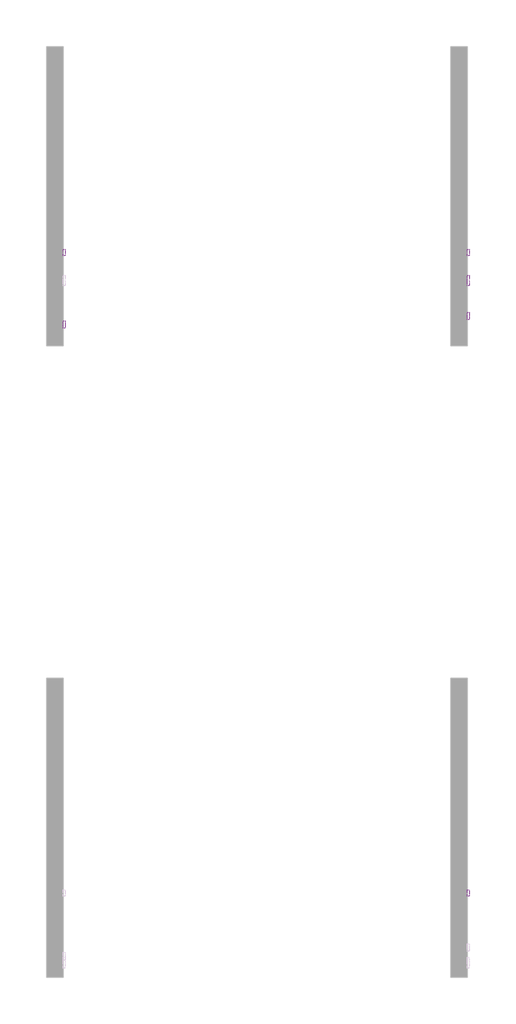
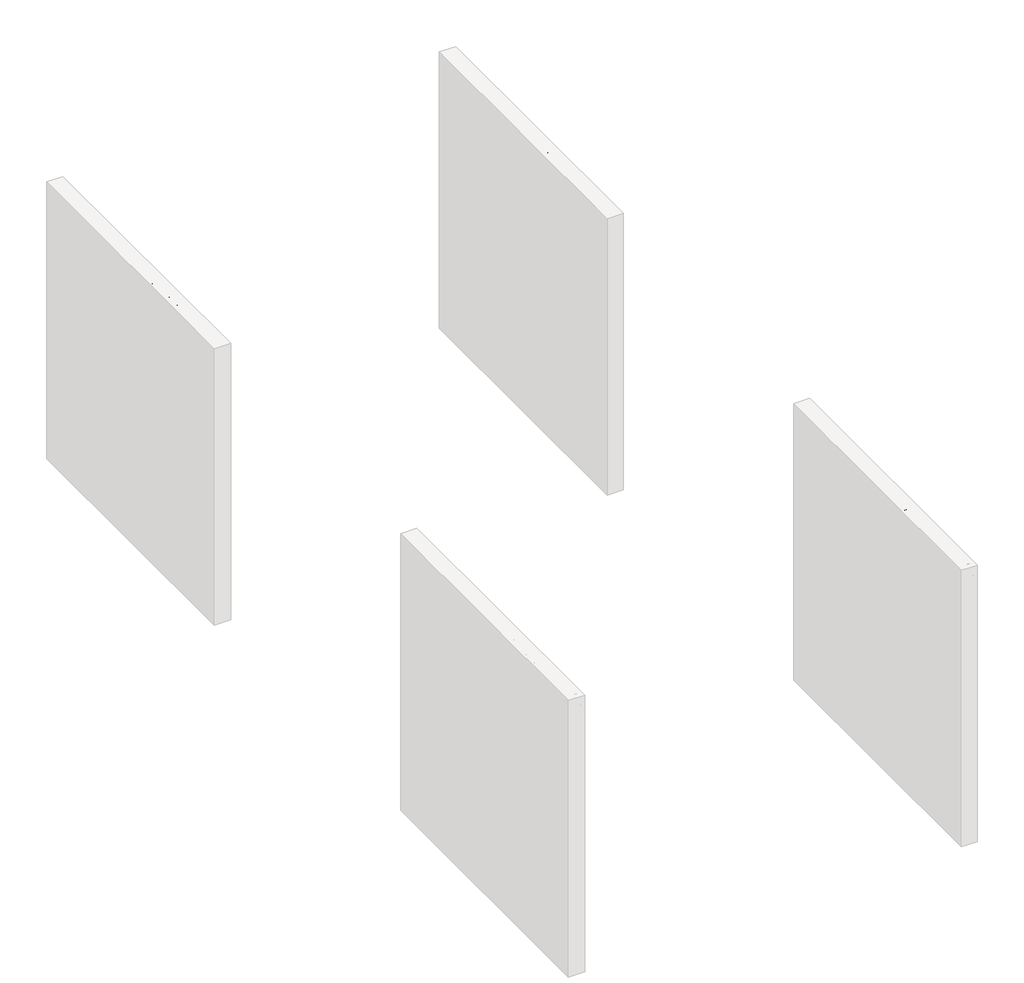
# One storey, part 8 of 9: 6 proxies.
"""IFC4 building model written with IfcOpenShell, lengths in millimetres."""

from ifc_helpers import new_model, si_unit, frame, origin, place, context, project, spatial, polyline, outline, extrude, element, save

model = new_model("IFC4")

# Units and contexts
model_context = context("Model", 3, world=origin())
ifc_project = project(units=[si_unit("LENGTHUNIT", "METRE", prefix="MILLI")], contexts=[model_context])

# Site, building, storey
site = spatial("IfcSite", under=ifc_project)
building = spatial("IfcBuilding", under=site)
storey = spatial("IfcBuildingStorey", under=building, Name="PORTOBELLO - SHOWROOM", Elevation=0.0)

# Proxies
placement = place(None, origin())
element("IfcBuildingElementProxy", 1, Name="10mm Arial", ObjectType="10mm Arial", at=placement, inside=storey, context=model_context, shape_type="SweptSolid", body=[
    extrude(outline(polyline([(20861.8829418, 2408.5886452), (20874.4399806, 2410.158275), (20880.0808379, 2398.1775847), (20890.7739412, 2394.4619766), (20900.939747, 2396.8532096), (20907.831403, 2403.2420935), (20911.9394186, 2414.1559261), (20913.7543031, 2428.7240531), (20913.6807267, 2431.1765997), (20903.6375483, 2421.6607188), (20889.8664989, 2418.0064243), (20878.4161718, 2420.2382417), (20868.8849625, 2426.933694), (20862.4562246, 2437.2773095), (20860.313312, 2450.4536163), (20862.5604578, 2464.0652501), (20869.3018954, 2474.7338279), (20879.4278473, 2481.6316153), (20891.8285362, 2483.9308778), (20909.7198639, 2478.682428), (20922.031648, 2463.7218935), (20926.2377655, 2435.6157091), (20922.0439108, 2405.1182917), (20916.8291835, 2395.1272299), (20909.5727111, 2387.8401007), (20900.5871934, 2383.3887285), (20890.18533, 2381.9049378), (20879.4493071, 2383.655443), (20870.883788, 2388.9069585), (20864.8934428, 2397.3283905), (20861.8829418, 2408.5886452)]), holes=[polyline([(20913.6807267, 2450.7479218), (20912.3256947, 2459.2582587), (20908.2605987, 2465.8065582), (20901.9514225, 2469.9820188), (20893.8641499, 2471.373839), (20885.4764404, 2469.8747199), (20878.7564627, 2465.3773625), (20874.3418787, 2458.4949035), (20872.8703507, 2449.8404796), (20874.262171, 2442.0812352), (20878.4376316, 2435.9222774), (20884.9920625, 2431.9031666), (20893.5207934, 2430.563463), (20908.0030813, 2435.9222774), (20912.2613154, 2442.3080957), (20913.6807267, 2450.7479218)])]), frame((-17115.5080774, 0.0, 0.0), z_axis=(1.0, 0.0, 0.0), x_axis=(0.0, 1.0, 0.0)), (0.0, 0.0, 1.0), 20.0),
    extrude(outline(polyline([(20932.5162849, 2383.4745677), (20959.3471451, 2420.5815982), (20934.0859147, 2457.2471704), (20949.1445511, 2457.2471704), (20961.3337079, 2439.5643092), (20967.0481415, 2431.2501761), (20972.0022857, 2438.0682557), (20985.8836997, 2457.2471704), (21000.9913869, 2457.2471704), (20974.4548323, 2420.5570728), (21000.0103683, 2383.4745677), (20984.9272065, 2383.4745677), (20969.5252136, 2405.792742), (20966.7293105, 2409.8884949), (20947.6239722, 2383.4745677), (20932.5162849, 2383.4745677)])), frame((-17115.5080774, 0.0, 0.0), z_axis=(1.0, 0.0, 0.0), x_axis=(0.0, 1.0, 0.0)), (0.0, 0.0, 1.0), 20.0),
    extrude(outline(polyline([(21007.8585175, 2410.158275), (21020.4155563, 2411.7279049), (21027.3440005, 2398.5086785), (21040.3057095, 2394.4619766), (21048.9141482, 2395.8537968), (21055.5605496, 2400.0292574), (21061.2259323, 2413.8125695), (21055.6096005, 2426.798804), (21041.3357791, 2431.9368892), (21032.5311367, 2430.563463), (21033.9290882, 2443.1205018), (21035.9401765, 2442.973349), (21050.1894724, 2446.5785926), (21054.9351502, 2451.152592), (21056.5170427, 2457.6641034), (21051.9307805, 2467.4865526), (21040.1095058, 2471.373839), (21028.1410782, 2467.4497644), (21021.9851861, 2455.6775406), (21009.4281474, 2457.2471704), (21013.1253614, 2468.5227536), (21019.7043178, 2476.9411199), (21028.7051639, 2482.1834383), (21039.6680474, 2483.9308778), (21054.8125228, 2480.4850498), (21065.4075243, 2471.0672707), (21069.0740815, 2458.3998673), (21065.5914653, 2446.8238472), (21055.2907694, 2438.5097141), (21068.9759796, 2429.9258009), (21073.782971, 2413.5918403), (21071.3794753, 2401.3536326), (21064.1689882, 2391.1265132), (21053.2858125, 2384.2103317), (21039.8642511, 2381.9049378), (21027.7241453, 2383.8731065), (21017.8403823, 2389.7776125), (21010.9671204, 2398.8091155), (21007.8585175, 2410.158275)])), frame((-17115.5080774, 0.0, 0.0), z_axis=(1.0, 0.0, 0.0), x_axis=(0.0, 1.0, 0.0)), (0.0, 0.0, 1.0), 20.0),
    extrude(outline(polyline([(21084.77038, 2469.8042092), (21084.77038, 2482.361248), (21150.6948335, 2482.361248), (21150.6948335, 2472.2077049), (21131.9941654, 2445.1929037), (21117.6835558, 2410.7714117), (21113.0237172, 2383.4745677), (21100.4666784, 2383.4745677), (21105.4576108, 2411.8014813), (21119.1550838, 2443.8194776), (21138.1377947, 2469.8042092), (21084.77038, 2469.8042092)])), frame((-17115.5080774, 0.0, 0.0), z_axis=(1.0, 0.0, 0.0), x_axis=(0.0, 1.0, 0.0)), (0.0, 0.0, 1.0), 20.0),
])
element("IfcBuildingElementProxy", 2, Name="10mm Arial", ObjectType="10mm Arial", at=placement, inside=storey, context=model_context, shape_type="SweptSolid", body=[
    extrude(outline(polyline([(20935.6555446, 2554.1836467), (20948.2125834, 2550.9462851), (20942.4184419, 2536.3137787), (20933.3256253, 2525.6237411), (20921.3817232, 2519.0846386), (20907.0343254, 2516.9049378), (20892.469264, 2518.5542754), (20880.902441, 2523.5022883), (20872.0364849, 2531.5772981), (20865.5740245, 2542.6076265), (20860.313312, 2569.4630122), (20861.8001684, 2584.110847), (20866.2607376, 2596.7598562), (20873.4620276, 2607.0084355), (20883.1710466, 2614.4549802), (20894.6857531, 2618.9891258), (20907.3041055, 2620.5005077), (20921.0720892, 2618.5446017), (20932.4549712, 2612.6768839), (20941.0971324, 2603.2591048), (20946.6429535, 2590.6530151), (20934.0859147, 2587.6609082), (20923.7852189, 2603.0996893), (20906.8135962, 2607.9434689), (20887.1686976, 2602.5723918), (20876.0709241, 2588.1514175), (20872.8703507, 2569.4875377), (20876.6595353, 2547.8560763), (20888.4562846, 2534.0359761), (20905.7835266, 2529.4619766), (20916.2650978, 2531.0193437), (20924.9992295, 2535.691445), (20931.5935142, 2543.4292297), (20935.6555446, 2554.1836467)])), frame((-13466.0063329, 0.0, 0.0), z_axis=(1.0, 0.0, 0.0), x_axis=(0.0, 1.0, 0.0)), (0.0, 0.0, 1.0), 20.0),
    extrude(outline(polyline([(20960.7696221, 2555.360869), (20963.4858175, 2573.1479635), (20971.6344037, 2585.64982), (20981.7021077, 2591.7750552), (20993.7563744, 2593.8168003), (21006.9480096, 2591.3305311), (21017.4847631, 2583.8717237), (21024.3917475, 2572.0289891), (21026.6940757, 2556.3909386), (21022.6228483, 2534.0482388), (21010.7647853, 2521.4053609), (20993.7563744, 2516.9049378), (20980.4053236, 2519.3820099), (20969.8808329, 2526.8132262), (20963.0474248, 2538.9042811), (20960.7696221, 2555.360869)]), holes=[polyline([(20973.3266609, 2555.3853945), (20974.7797948, 2544.0209065), (20979.1391964, 2535.924437), (20985.6997587, 2531.0775917), (20993.7563744, 2529.4619766), (21001.7762019, 2531.0867887), (21008.3245014, 2535.9612252), (21012.683903, 2544.1649937), (21014.1370369, 2555.777802), (21012.674706, 2566.8111961), (21008.2877132, 2574.7973011), (21001.7302166, 2579.6441464), (20993.7563744, 2581.2597615), (20985.6997587, 2579.6502778), (20979.1391964, 2574.8218266), (20974.7797948, 2566.7437511), (20973.3266609, 2555.3853945)])]), frame((-13466.0063329, 0.0, 0.0), z_axis=(1.0, 0.0, 0.0), x_axis=(0.0, 1.0, 0.0)), (0.0, 0.0, 1.0), 20.0),
    extrude(outline(polyline([(21084.77038, 2518.4745677), (21084.77038, 2579.6901317), (21073.782971, 2579.6901317), (21073.782971, 2592.2471704), (21084.77038, 2592.2471704), (21084.77038, 2599.6783867), (21086.0947552, 2610.1507609), (21092.5204273, 2617.6310281), (21105.175568, 2620.5005077), (21116.6289608, 2619.1270815), (21114.7895508, 2607.3548577), (21107.5545382, 2607.9434689), (21099.6450753, 2605.8588043), (21097.3274187, 2598.0842314), (21097.3274187, 2592.2471704), (21111.4540874, 2592.2471704), (21111.4540874, 2579.6901317), (21097.3274187, 2579.6901317), (21097.3274187, 2518.4745677), (21084.77038, 2518.4745677)])), frame((-13466.0063329, 0.0, 0.0), z_axis=(1.0, 0.0, 0.0), x_axis=(0.0, 1.0, 0.0)), (0.0, 0.0, 1.0), 20.0),
    extrude(outline(polyline([(21043.960004, 2518.4745677), (21043.960004, 2579.6901317), (21032.972595, 2579.6901317), (21032.972595, 2592.2471704), (21043.960004, 2592.2471704), (21043.960004, 2599.6783867), (21045.2843792, 2610.1507609), (21051.7100513, 2617.6310281), (21064.365192, 2620.5005077), (21075.8185848, 2619.1270815), (21073.9791748, 2607.3548577), (21066.7441622, 2607.9434689), (21058.8346993, 2605.8588043), (21056.5170427, 2598.0842314), (21056.5170427, 2592.2471704), (21070.6437114, 2592.2471704), (21070.6437114, 2579.6901317), (21056.5170427, 2579.6901317), (21056.5170427, 2518.4745677), (21043.960004, 2518.4745677)])), frame((-13466.0063329, 0.0, 0.0), z_axis=(1.0, 0.0, 0.0), x_axis=(0.0, 1.0, 0.0)), (0.0, 0.0, 1.0), 20.0),
    extrude(outline(polyline([(21174.0921284, 2540.4493855), (21186.4039125, 2538.8797557), (21181.9678688, 2529.602998), (21174.8892061, 2522.6684224), (21165.3273399, 2518.345809), (21153.4416857, 2516.9049378), (21138.7080118, 2519.391207), (21127.371115, 2526.8500144), (21120.1422338, 2538.7969822), (21117.7326067, 2554.7477324), (21120.1667593, 2571.2349771), (21127.4692169, 2583.5651553), (21138.6528295, 2591.253889), (21152.7304472, 2593.8168003), (21166.3696722, 2591.2600204), (21177.2681763, 2583.5896808), (21184.414284, 2571.2840281), (21186.79632, 2554.8213088), (21186.7227436, 2551.4367944), (21130.2896455, 2551.4367944), (21132.463215, 2542.0374095), (21137.5123953, 2535.1273593), (21144.7995245, 2530.8783223), (21153.6869404, 2529.4619766), (21165.9987245, 2532.0862015), (21174.0921284, 2540.4493855)]), holes=[polyline([(21130.2896455, 2563.9938332), (21174.2392812, 2563.9938332), (21169.2115606, 2575.3736496), (21161.8907089, 2579.7882335), (21152.6813963, 2581.2597615), (21137.2180897, 2576.5631347), (21132.3528504, 2571.0724959), (21130.2896455, 2563.9938332)])]), frame((-13466.0063329, 0.0, 0.0), z_axis=(1.0, 0.0, 0.0), x_axis=(0.0, 1.0, 0.0)), (0.0, 0.0, 1.0), 20.0),
    extrude(outline(polyline([(21251.0039909, 2540.4493855), (21263.315775, 2538.8797557), (21258.8797312, 2529.602998), (21251.8010685, 2522.6684224), (21242.2392023, 2518.345809), (21230.3535482, 2516.9049378), (21215.6198743, 2519.391207), (21204.2829775, 2526.8500144), (21197.0540963, 2538.7969822), (21194.6444692, 2554.7477324), (21197.0786217, 2571.2349771), (21204.3810793, 2583.5651553), (21215.564692, 2591.253889), (21229.6423097, 2593.8168003), (21243.2815346, 2591.2600204), (21254.1800387, 2583.5896808), (21261.3261465, 2571.2840281), (21263.7081824, 2554.8213088), (21263.634606, 2551.4367944), (21207.201508, 2551.4367944), (21209.3750774, 2542.0374095), (21214.4242578, 2535.1273593), (21221.711387, 2530.8783223), (21230.5988029, 2529.4619766), (21242.910587, 2532.0862015), (21251.0039909, 2540.4493855)]), holes=[polyline([(21207.201508, 2563.9938332), (21251.1511437, 2563.9938332), (21246.1234231, 2575.3736496), (21238.8025713, 2579.7882335), (21229.5932587, 2581.2597615), (21214.1299522, 2576.5631347), (21209.2647128, 2571.0724959), (21207.201508, 2563.9938332)])]), frame((-13466.0063329, 0.0, 0.0), z_axis=(1.0, 0.0, 0.0), x_axis=(0.0, 1.0, 0.0)), (0.0, 0.0, 1.0), 20.0),
    extrude(outline(polyline([(21317.0755972, 2518.4745677), (21317.0755972, 2618.9308778), (21338.6089566, 2618.9308778), (21359.2103484, 2548.1258565), (21363.3796776, 2533.3370003), (21367.867838, 2549.3521298), (21388.0768223, 2618.9308778), (21409.6837581, 2618.9308778), (21409.6837581, 2518.4745677), (21397.1267193, 2518.4745677), (21397.1267193, 2606.373839), (21371.8900145, 2518.4745677), (21354.8938663, 2518.4745677), (21329.632636, 2606.373839), (21329.632636, 2518.4745677), (21317.0755972, 2518.4745677)])), frame((-13466.0063329, 0.0, 0.0), z_axis=(1.0, 0.0, 0.0), x_axis=(0.0, 1.0, 0.0)), (0.0, 0.0, 1.0), 20.0),
    extrude(outline(polyline([(-13446.0063329, 21442.6459849), (-13446.0063329, 21430.0889461), (-13466.0063329, 21430.0889461), (-13466.0063329, 21442.6459849), (-13446.0063329, 21442.6459849)])), frame((0.0, 0.0, 2606.373839), z_axis=(0.0, 0.0, 1.0), x_axis=(1.0, 0.0, 0.0)), (0.0, 0.0, 1.0), 12.5570388),
    extrude(outline(polyline([(-13446.0063329, 21442.6459849), (-13446.0063329, 21430.0889461), (-13466.0063329, 21430.0889461), (-13466.0063329, 21442.6459849), (-13446.0063329, 21442.6459849)])), frame((0.0, 0.0, 2518.4745677), z_axis=(0.0, 0.0, 1.0), x_axis=(1.0, 0.0, 0.0)), (0.0, 0.0, 1.0), 73.7726028),
    extrude(outline(polyline([(21453.6333938, 2518.4745677), (21480.464254, 2555.5815982), (21455.2030236, 2592.2471704), (21470.26166, 2592.2471704), (21482.4508168, 2574.5643092), (21488.1652504, 2566.2501761), (21493.1193946, 2573.0682557), (21507.0008086, 2592.2471704), (21522.1084958, 2592.2471704), (21495.5719412, 2555.5570728), (21521.1274772, 2518.4745677), (21506.0443154, 2518.4745677), (21490.6423225, 2540.792742), (21487.8464194, 2544.8884949), (21468.7410811, 2518.4745677), (21453.6333938, 2518.4745677)])), frame((-13466.0063329, 0.0, 0.0), z_axis=(1.0, 0.0, 0.0), x_axis=(0.0, 1.0, 0.0)), (0.0, 0.0, 1.0), 20.0),
])
element("IfcBuildingElementProxy", 3, Name="10mm Arial", ObjectType="10mm Arial", at=placement, inside=storey, context=model_context, shape_type="SweptSolid", body=[
    extrude(outline(polyline([(20924.6681357, 2396.0316064), (20924.6681357, 2383.4745677), (20858.7436821, 2383.4745677), (20860.0925828, 2392.1320573), (20867.7322655, 2405.4616482), (20883.4653522, 2420.0175125), (20905.1336017, 2440.9377353), (20910.5414671, 2455.1625058), (20905.4279073, 2466.6772122), (20892.0737909, 2471.373839), (20878.1555887, 2466.7875768), (20872.8703507, 2454.1079107), (20860.313312, 2455.6775406), (20863.3575355, 2467.8237778), (20869.9395575, 2476.6958652), (20879.7160215, 2482.1221247), (20892.343571, 2483.9308778), (20905.063091, 2481.9197896), (20914.8211609, 2475.8865249), (20921.0291696, 2466.873416), (20923.0985058, 2455.9227952), (20920.8666884, 2444.0156813), (20913.4477348, 2431.7038972), (20895.4583053, 2414.4992826), (20881.0128056, 2402.4204904), (20875.3474228, 2396.0316064), (20924.6681357, 2396.0316064)])), frame((-13466.0063329, 0.0, 0.0), z_axis=(1.0, 0.0, 0.0), x_axis=(0.0, 1.0, 0.0)), (0.0, 0.0, 1.0), 20.0),
    extrude(outline(polyline([(20937.2251744, 2432.8933823), (20940.9162571, 2461.7966444), (20951.8791406, 2478.4616988), (20970.1874012, 2483.9308778), (20984.8536301, 2480.6935163), (20994.9826477, 2471.3615763), (21000.8687596, 2456.4991437), (21003.149628, 2432.8933823), (20999.4953335, 2404.1127476), (20988.5692382, 2387.410905), (20980.3378786, 2383.2814296), (20970.1874012, 2381.9049378), (20957.1398531, 2384.2961708), (20947.2315647, 2391.4698697), (20939.726772, 2408.4598865), (20937.2251744, 2432.8933823)]), holes=[polyline([(20949.7822132, 2432.9179078), (20951.2537412, 2413.1657104), (20955.6683251, 2401.7337774), (20962.2411501, 2396.2799268), (20970.1874012, 2394.4619766), (20978.1336523, 2396.2860581), (20984.7064773, 2401.7583028), (20989.1210612, 2413.1963672), (20990.5925892, 2432.9179078), (20989.1701122, 2452.2255812), (20984.902681, 2463.746419), (20978.3421188, 2469.466984), (20970.0402484, 2471.373839), (20962.1798364, 2469.6938446), (20955.8645289, 2464.6538613), (20951.3027921, 2452.4156536), (20949.7822132, 2432.9179078)])]), frame((-13466.0063329, 0.0, 0.0), z_axis=(1.0, 0.0, 0.0), x_axis=(0.0, 1.0, 0.0)), (0.0, 0.0, 1.0), 20.0),
    extrude(outline(polyline([(21009.4281474, 2383.4745677), (21036.2590075, 2420.5815982), (21010.9977772, 2457.2471704), (21026.0564135, 2457.2471704), (21038.2455703, 2439.5643092), (21043.960004, 2431.2501761), (21048.9141482, 2438.0682557), (21062.7955621, 2457.2471704), (21077.9032494, 2457.2471704), (21051.3666948, 2420.5570728), (21076.9222307, 2383.4745677), (21061.8390689, 2383.4745677), (21046.4370761, 2405.792742), (21043.6411729, 2409.8884949), (21024.5358346, 2383.4745677), (21009.4281474, 2383.4745677)])), frame((-13466.0063329, 0.0, 0.0), z_axis=(1.0, 0.0, 0.0), x_axis=(0.0, 1.0, 0.0)), (0.0, 0.0, 1.0), 20.0),
    extrude(outline(polyline([(21149.1252037, 2396.0316064), (21149.1252037, 2383.4745677), (21083.2007501, 2383.4745677), (21084.5496508, 2392.1320573), (21092.1893335, 2405.4616482), (21107.9224202, 2420.0175125), (21129.5906697, 2440.9377353), (21134.998535, 2455.1625058), (21129.8849753, 2466.6772122), (21116.5308589, 2471.373839), (21102.6126567, 2466.7875768), (21097.3274187, 2454.1079107), (21084.77038, 2455.6775406), (21087.8146035, 2467.8237778), (21094.3966255, 2476.6958652), (21104.1730895, 2482.1221247), (21116.800639, 2483.9308778), (21129.520159, 2481.9197896), (21139.2782289, 2475.8865249), (21145.4862376, 2466.873416), (21147.5555738, 2455.9227952), (21145.3237564, 2444.0156813), (21137.9048028, 2431.7038972), (21119.9153732, 2414.4992826), (21105.4698736, 2402.4204904), (21099.8044908, 2396.0316064), (21149.1252037, 2396.0316064)])), frame((-13466.0063329, 0.0, 0.0), z_axis=(1.0, 0.0, 0.0), x_axis=(0.0, 1.0, 0.0)), (0.0, 0.0, 1.0), 20.0),
    extrude(outline(polyline([(21161.6822424, 2432.8933823), (21165.3733251, 2461.7966444), (21176.3362086, 2478.4616988), (21194.6444692, 2483.9308778), (21209.3106981, 2480.6935163), (21219.4397157, 2471.3615763), (21225.3258276, 2456.4991437), (21227.606696, 2432.8933823), (21223.9524015, 2404.1127476), (21213.0263062, 2387.410905), (21204.7949466, 2383.2814296), (21194.6444692, 2381.9049378), (21181.5969211, 2384.2961708), (21171.6886327, 2391.4698697), (21164.18384, 2408.4598865), (21161.6822424, 2432.8933823)]), holes=[polyline([(21174.2392812, 2432.9179078), (21175.7108092, 2413.1657104), (21180.1253931, 2401.7337774), (21186.6982181, 2396.2799268), (21194.6444692, 2394.4619766), (21202.5907203, 2396.2860581), (21209.1635453, 2401.7583028), (21213.5781292, 2413.1963672), (21215.0496572, 2432.9179078), (21213.6271801, 2452.2255812), (21209.359749, 2463.746419), (21202.7991868, 2469.466984), (21194.4973164, 2471.373839), (21186.6369044, 2469.6938446), (21180.3215968, 2464.6538613), (21175.7598601, 2452.4156536), (21174.2392812, 2432.9179078)])]), frame((-13466.0063329, 0.0, 0.0), z_axis=(1.0, 0.0, 0.0), x_axis=(0.0, 1.0, 0.0)), (0.0, 0.0, 1.0), 20.0),
])
element("IfcBuildingElementProxy", 4, Name="10mm Arial Narrow", ObjectType="10mm Arial Narrow", at=placement, inside=storey, context=model_context, shape_type="SweptSolid", body=[
    extrude(outline(polyline([(15806.9277964, 2518.4745677), (15806.9277964, 2615.7916181), (15837.1676964, 2615.7916181), (15852.9130458, 2613.9767336), (15863.9985566, 2604.8164719), (15868.1433604, 2588.3721467), (15866.4173807, 2576.7041561), (15861.2394416, 2567.402873), (15851.8247282, 2561.314426), (15837.3884256, 2559.2849437), (15816.3455754, 2559.2849437), (15816.3455754, 2518.4745677), (15806.9277964, 2518.4745677)]), holes=[polyline([(15816.3455754, 2570.2723526), (15838.5411225, 2570.2723526), (15853.869539, 2574.6501483), (15858.7255813, 2587.857112), (15856.3343483, 2597.6795612), (15850.558601, 2603.2836303), (15838.3203933, 2604.8042092), (15816.3455754, 2604.8042092), (15816.3455754, 2570.2723526)])]), frame((-13466.0063329, 0.0, 0.0), z_axis=(1.0, 0.0, 0.0), x_axis=(0.0, 1.0, 0.0)), (0.0, 0.0, 1.0), 20.0),
    extrude(outline(polyline([(15875.9915096, 2553.7912392), (15877.8799705, 2569.8216971), (15883.5453532, 2581.3701261), (15892.104741, 2588.350687), (15902.675217, 2590.6775406), (15913.1230656, 2588.350687), (15921.7069789, 2581.3701261), (15927.445938, 2570.0056381), (15929.3589244, 2554.5270032), (15927.4796605, 2537.9447223), (15921.8418689, 2526.2123523), (15913.2916782, 2519.2317914), (15902.675217, 2516.9049378), (15892.1813831, 2519.2379228), (15883.6066669, 2526.2368778), (15877.8952989, 2537.7914381), (15875.9915096, 2553.7912392)]), holes=[polyline([(15885.4092887, 2553.8157647), (15886.6692845, 2541.6879216), (15890.449272, 2533.1162711), (15896.093195, 2528.0211054), (15902.9449971, 2526.3227169), (15909.4381143, 2528.0364339), (15914.9379502, 2533.1775847), (15918.6903465, 2541.7645636), (15919.9411453, 2553.8157647), (15918.6811495, 2565.9068196), (15914.901162, 2574.4662073), (15909.257239, 2579.561373), (15902.4054369, 2581.2597615), (15895.8663344, 2579.5521759), (15890.3756956, 2574.4294191), (15886.6508904, 2565.8608343), (15885.4092887, 2553.8157647)])]), frame((-13466.0063329, 0.0, 0.0), z_axis=(1.0, 0.0, 0.0), x_axis=(0.0, 1.0, 0.0)), (0.0, 0.0, 1.0), 20.0),
    extrude(outline(polyline([(15998.4226376, 2526.3227169), (15999.9922674, 2516.9049378), (15992.8798822, 2516.9049378), (15984.8845802, 2518.9528143), (15980.7152509, 2524.5568833), (15979.5870794, 2538.7080774), (15979.5870794, 2579.6901317), (15971.7389302, 2579.6901317), (15971.7389302, 2582.8293914), (15970.1693004, 2578.1205018), (15962.8607114, 2579.6901317), (15956.9868622, 2577.4460515), (15953.2467286, 2571.1797948), (15951.3337422, 2556.2928368), (15951.3337422, 2518.4745677), (15941.9159631, 2518.4745677), (15941.9159631, 2589.1079107), (15951.3337422, 2589.1079107), (15951.3337422, 2579.7391826), (15957.3670069, 2588.5192995), (15963.5474244, 2590.6775406), (15971.7389302, 2589.1079107), (15979.5870794, 2589.1079107), (15979.5870794, 2604.8042092), (15989.0048585, 2612.6523584), (15989.0048585, 2589.1079107), (15998.4226376, 2589.1079107), (15998.4226376, 2579.6901317), (15989.0048585, 2579.6901317), (15989.0048585, 2536.5498364), (15989.8387244, 2528.8243145), (15994.3023592, 2526.3227169), (15998.4226376, 2526.3227169)])), frame((-13466.0063329, 0.0, 0.0), z_axis=(1.0, 0.0, 0.0), x_axis=(0.0, 1.0, 0.0)), (0.0, 0.0, 1.0), 20.0),
    extrude(outline(polyline([(16004.701157, 2553.7912392), (16006.5896179, 2569.8216971), (16012.2550006, 2581.3701261), (16020.8143884, 2588.350687), (16031.3848644, 2590.6775406), (16041.832713, 2588.350687), (16050.4166262, 2581.3701261), (16056.1555854, 2570.0056381), (16058.0685717, 2554.5270032), (16056.1893079, 2537.9447223), (16050.5515163, 2526.2123523), (16042.0013256, 2519.2317914), (16031.3848644, 2516.9049378), (16020.8910304, 2519.2379228), (16012.3163143, 2526.2368778), (16006.6049463, 2537.7914381), (16004.701157, 2553.7912392)]), holes=[polyline([(16014.1189361, 2553.8157647), (16015.3789319, 2541.6879216), (16019.1589194, 2533.1162711), (16024.8028423, 2528.0211054), (16031.6546445, 2526.3227169), (16038.1477617, 2528.0364339), (16043.6475975, 2533.1775847), (16047.3999939, 2541.7645636), (16048.6507927, 2553.8157647), (16047.3907968, 2565.9068196), (16043.6108093, 2574.4662073), (16037.9668864, 2579.561373), (16031.1150842, 2581.2597615), (16024.5759818, 2579.5521759), (16019.085343, 2574.4294191), (16015.3605378, 2565.8608343), (16014.1189361, 2553.8157647)])]), frame((-13466.0063329, 0.0, 0.0), z_axis=(1.0, 0.0, 0.0), x_axis=(0.0, 1.0, 0.0)), (0.0, 0.0, 1.0), 20.0),
    extrude(outline(polyline([(16080.0433896, 2518.4745677), (16070.6256105, 2518.4745677), (16070.6256105, 2615.7916181), (16080.0433896, 2615.7916181), (16080.0433896, 2581.5785926), (16087.192563, 2588.4211977), (16096.0830446, 2590.6775406), (16108.5297187, 2586.6185759), (16117.4937767, 2574.3190545), (16120.8537656, 2554.3307995), (16118.9867645, 2538.4321659), (16113.3857611, 2526.641548), (16105.2954229, 2519.3390904), (16095.9604172, 2516.9049378), (16086.9350456, 2519.4310609), (16080.0433896, 2526.9358536), (16080.0433896, 2518.4745677)]), holes=[polyline([(16080.0433896, 2554.3307995), (16082.0544778, 2537.6657451), (16087.744386, 2529.2289847), (16095.9113663, 2526.3227169), (16101.6533911, 2528.0517623), (16106.7148342, 2533.2388984), (16111.4359865, 2553.938392), (16106.8865125, 2574.6501483), (16101.818938, 2579.6073582), (16095.7151626, 2581.2597615), (16089.9394153, 2579.5307161), (16084.8258555, 2574.34358), (16080.0433896, 2554.3307995)])]), frame((-13466.0063329, 0.0, 0.0), z_axis=(1.0, 0.0, 0.0), x_axis=(0.0, 1.0, 0.0)), (0.0, 0.0, 1.0), 20.0),
    extrude(outline(polyline([(16171.0819207, 2540.4493855), (16180.4996997, 2538.8797557), (16171.3026499, 2522.4476932), (16154.8215365, 2516.9049378), (16143.6195297, 2519.2379228), (16134.7842305, 2526.2368778), (16129.0452713, 2537.6442853), (16127.132285, 2553.202628), (16129.0544684, 2569.3066623), (16134.8210187, 2581.0758205), (16143.5306249, 2588.2771106), (16154.2819762, 2590.6775406), (16164.6041319, 2588.359884), (16173.0562207, 2581.4069143), (16178.6940123, 2570.0638861), (16180.5732761, 2554.5760541), (16180.4996997, 2551.4367944), (16136.550064, 2551.4367944), (16142.3503368, 2532.6502872), (16148.0800989, 2527.9046095), (16154.9441638, 2526.3227169), (16164.7788758, 2529.854384), (16171.0819207, 2540.4493855)]), holes=[polyline([(16137.1877262, 2560.8545735), (16171.0819207, 2560.8545735), (16166.9616423, 2574.6378856), (16161.3330478, 2579.6042925), (16154.3555526, 2581.2597615), (16142.5588033, 2575.7415316), (16137.1877262, 2560.8545735)])]), frame((-13466.0063329, 0.0, 0.0), z_axis=(1.0, 0.0, 0.0), x_axis=(0.0, 1.0, 0.0)), (0.0, 0.0, 1.0), 20.0),
    extrude(outline(polyline([(-13446.0063329, 16202.4745176), (-13446.0063329, 16193.0567385), (-13466.0063329, 16193.0567385), (-13466.0063329, 16202.4745176), (-13446.0063329, 16202.4745176)])), frame((0.0, 0.0, 2518.4745677), z_axis=(0.0, 0.0, 1.0), x_axis=(1.0, 0.0, 0.0)), (0.0, 0.0, 1.0), 97.3170505),
    extrude(outline(polyline([(-13446.0063329, 16227.5885951), (-13446.0063329, 16218.170816), (-13466.0063329, 16218.170816), (-13466.0063329, 16227.5885951), (-13446.0063329, 16227.5885951)])), frame((0.0, 0.0, 2518.4745677), z_axis=(0.0, 0.0, 1.0), x_axis=(1.0, 0.0, 0.0)), (0.0, 0.0, 1.0), 97.3170505),
    extrude(outline(polyline([(16238.576004, 2553.7912392), (16240.464465, 2569.8216971), (16246.1298477, 2581.3701261), (16254.6892354, 2588.350687), (16265.2597114, 2590.6775406), (16275.7075601, 2588.350687), (16284.2914733, 2581.3701261), (16290.0304324, 2570.0056381), (16291.9434188, 2554.5270032), (16290.064155, 2537.9447223), (16284.4263634, 2526.2123523), (16275.8761727, 2519.2317914), (16265.2597114, 2516.9049378), (16254.7658775, 2519.2379228), (16246.1911613, 2526.2368778), (16240.4797934, 2537.7914381), (16238.576004, 2553.7912392)]), holes=[polyline([(16247.9937831, 2553.8157647), (16249.253779, 2541.6879216), (16253.0337665, 2533.1162711), (16258.6776894, 2528.0211054), (16265.5294916, 2526.3227169), (16272.0226088, 2528.0364339), (16277.5224446, 2533.1775847), (16281.274841, 2541.7645636), (16282.5256397, 2553.8157647), (16281.2656439, 2565.9068196), (16277.4856564, 2574.4662073), (16271.8417335, 2579.561373), (16264.9899313, 2581.2597615), (16258.4508288, 2579.5521759), (16252.9601901, 2574.4294191), (16249.2353849, 2565.8608343), (16247.9937831, 2553.8157647)])]), frame((-13466.0063329, 0.0, 0.0), z_axis=(1.0, 0.0, 0.0), x_axis=(0.0, 1.0, 0.0)), (0.0, 0.0, 1.0), 20.0),
])
element("IfcBuildingElementProxy", 5, Name="10mm Arial Narrow", ObjectType="10mm Arial Narrow", at=placement, inside=storey, context=model_context, shape_type="SweptSolid", body=[
    extrude(outline(polyline([(21586.9277964, 2518.4745677), (21586.9277964, 2615.7916181), (21617.1676964, 2615.7916181), (21632.9130458, 2613.9767336), (21643.9985566, 2604.8164719), (21648.1433604, 2588.3721467), (21646.4173807, 2576.7041561), (21641.2394416, 2567.402873), (21631.8247282, 2561.314426), (21617.3884256, 2559.2849437), (21596.3455754, 2559.2849437), (21596.3455754, 2518.4745677), (21586.9277964, 2518.4745677)]), holes=[polyline([(21596.3455754, 2570.2723526), (21618.5411225, 2570.2723526), (21633.869539, 2574.6501483), (21638.7255813, 2587.857112), (21636.3343483, 2597.6795612), (21630.558601, 2603.2836303), (21618.3203933, 2604.8042092), (21596.3455754, 2604.8042092), (21596.3455754, 2570.2723526)])]), frame((-17115.5080774, 0.0, 0.0), z_axis=(1.0, 0.0, 0.0), x_axis=(0.0, 1.0, 0.0)), (0.0, 0.0, 1.0), 20.0),
    extrude(outline(polyline([(21655.9915096, 2553.7912392), (21657.8799705, 2569.8216971), (21663.5453532, 2581.3701261), (21672.104741, 2588.350687), (21682.675217, 2590.6775406), (21693.1230656, 2588.350687), (21701.7069789, 2581.3701261), (21707.445938, 2570.0056381), (21709.3589244, 2554.5270032), (21707.4796605, 2537.9447223), (21701.8418689, 2526.2123523), (21693.2916782, 2519.2317914), (21682.675217, 2516.9049378), (21672.1813831, 2519.2379228), (21663.6066669, 2526.2368778), (21657.8952989, 2537.7914381), (21655.9915096, 2553.7912392)]), holes=[polyline([(21665.4092887, 2553.8157647), (21666.6692845, 2541.6879216), (21670.449272, 2533.1162711), (21676.093195, 2528.0211054), (21682.9449971, 2526.3227169), (21689.4381143, 2528.0364339), (21694.9379502, 2533.1775847), (21698.6903465, 2541.7645636), (21699.9411453, 2553.8157647), (21698.6811495, 2565.9068196), (21694.901162, 2574.4662073), (21689.257239, 2579.561373), (21682.4054369, 2581.2597615), (21675.8663344, 2579.5521759), (21670.3756956, 2574.4294191), (21666.6508904, 2565.8608343), (21665.4092887, 2553.8157647)])]), frame((-17115.5080774, 0.0, 0.0), z_axis=(1.0, 0.0, 0.0), x_axis=(0.0, 1.0, 0.0)), (0.0, 0.0, 1.0), 20.0),
    extrude(outline(polyline([(21778.4226376, 2526.3227169), (21779.9922674, 2516.9049378), (21772.8798822, 2516.9049378), (21764.8845802, 2518.9528143), (21760.7152509, 2524.5568833), (21759.5870794, 2538.7080774), (21759.5870794, 2579.6901317), (21751.7389302, 2579.6901317), (21751.7389302, 2582.8293914), (21750.1693004, 2578.1205018), (21742.8607114, 2579.6901317), (21736.9868622, 2577.4460515), (21733.2467286, 2571.1797948), (21731.3337422, 2556.2928368), (21731.3337422, 2518.4745677), (21721.9159631, 2518.4745677), (21721.9159631, 2589.1079107), (21731.3337422, 2589.1079107), (21731.3337422, 2579.7391826), (21737.3670069, 2588.5192995), (21743.5474244, 2590.6775406), (21751.7389302, 2589.1079107), (21759.5870794, 2589.1079107), (21759.5870794, 2604.8042092), (21769.0048585, 2612.6523584), (21769.0048585, 2589.1079107), (21778.4226376, 2589.1079107), (21778.4226376, 2579.6901317), (21769.0048585, 2579.6901317), (21769.0048585, 2536.5498364), (21769.8387244, 2528.8243145), (21774.3023592, 2526.3227169), (21778.4226376, 2526.3227169)])), frame((-17115.5080774, 0.0, 0.0), z_axis=(1.0, 0.0, 0.0), x_axis=(0.0, 1.0, 0.0)), (0.0, 0.0, 1.0), 20.0),
    extrude(outline(polyline([(21784.701157, 2553.7912392), (21786.5896179, 2569.8216971), (21792.2550006, 2581.3701261), (21800.8143884, 2588.350687), (21811.3848644, 2590.6775406), (21821.832713, 2588.350687), (21830.4166262, 2581.3701261), (21836.1555854, 2570.0056381), (21838.0685717, 2554.5270032), (21836.1893079, 2537.9447223), (21830.5515163, 2526.2123523), (21822.0013256, 2519.2317914), (21811.3848644, 2516.9049378), (21800.8910304, 2519.2379228), (21792.3163143, 2526.2368778), (21786.6049463, 2537.7914381), (21784.701157, 2553.7912392)]), holes=[polyline([(21794.1189361, 2553.8157647), (21795.3789319, 2541.6879216), (21799.1589194, 2533.1162711), (21804.8028423, 2528.0211054), (21811.6546445, 2526.3227169), (21818.1477617, 2528.0364339), (21823.6475975, 2533.1775847), (21827.3999939, 2541.7645636), (21828.6507927, 2553.8157647), (21827.3907968, 2565.9068196), (21823.6108093, 2574.4662073), (21817.9668864, 2579.561373), (21811.1150842, 2581.2597615), (21804.5759818, 2579.5521759), (21799.085343, 2574.4294191), (21795.3605378, 2565.8608343), (21794.1189361, 2553.8157647)])]), frame((-17115.5080774, 0.0, 0.0), z_axis=(1.0, 0.0, 0.0), x_axis=(0.0, 1.0, 0.0)), (0.0, 0.0, 1.0), 20.0),
    extrude(outline(polyline([(21860.0433896, 2518.4745677), (21850.6256105, 2518.4745677), (21850.6256105, 2615.7916181), (21860.0433896, 2615.7916181), (21860.0433896, 2581.5785926), (21867.192563, 2588.4211977), (21876.0830446, 2590.6775406), (21888.5297187, 2586.6185759), (21897.4937767, 2574.3190545), (21900.8537656, 2554.3307995), (21898.9867645, 2538.4321659), (21893.3857611, 2526.641548), (21885.2954229, 2519.3390904), (21875.9604172, 2516.9049378), (21866.9350456, 2519.4310609), (21860.0433896, 2526.9358536), (21860.0433896, 2518.4745677)]), holes=[polyline([(21860.0433896, 2554.3307995), (21862.0544778, 2537.6657451), (21867.744386, 2529.2289847), (21875.9113663, 2526.3227169), (21881.6533911, 2528.0517623), (21886.7148342, 2533.2388984), (21891.4359865, 2553.938392), (21886.8865125, 2574.6501483), (21881.818938, 2579.6073582), (21875.7151626, 2581.2597615), (21869.9394153, 2579.5307161), (21864.8258555, 2574.34358), (21860.0433896, 2554.3307995)])]), frame((-17115.5080774, 0.0, 0.0), z_axis=(1.0, 0.0, 0.0), x_axis=(0.0, 1.0, 0.0)), (0.0, 0.0, 1.0), 20.0),
    extrude(outline(polyline([(21951.0819207, 2540.4493855), (21960.4996997, 2538.8797557), (21951.3026499, 2522.4476932), (21934.8215365, 2516.9049378), (21923.6195297, 2519.2379228), (21914.7842305, 2526.2368778), (21909.0452713, 2537.6442853), (21907.132285, 2553.202628), (21909.0544684, 2569.3066623), (21914.8210187, 2581.0758205), (21923.5306249, 2588.2771106), (21934.2819762, 2590.6775406), (21944.6041319, 2588.359884), (21953.0562207, 2581.4069143), (21958.6940123, 2570.0638861), (21960.5732761, 2554.5760541), (21960.4996997, 2551.4367944), (21916.550064, 2551.4367944), (21922.3503368, 2532.6502872), (21928.0800989, 2527.9046095), (21934.9441638, 2526.3227169), (21944.7788758, 2529.854384), (21951.0819207, 2540.4493855)]), holes=[polyline([(21917.1877262, 2560.8545735), (21951.0819207, 2560.8545735), (21946.9616423, 2574.6378856), (21941.3330478, 2579.6042925), (21934.3555526, 2581.2597615), (21922.5588033, 2575.7415316), (21917.1877262, 2560.8545735)])]), frame((-17115.5080774, 0.0, 0.0), z_axis=(1.0, 0.0, 0.0), x_axis=(0.0, 1.0, 0.0)), (0.0, 0.0, 1.0), 20.0),
    extrude(outline(polyline([(-17095.5080774, 21982.4745176), (-17095.5080774, 21973.0567385), (-17115.5080774, 21973.0567385), (-17115.5080774, 21982.4745176), (-17095.5080774, 21982.4745176)])), frame((0.0, 0.0, 2518.4745677), z_axis=(0.0, 0.0, 1.0), x_axis=(1.0, 0.0, 0.0)), (0.0, 0.0, 1.0), 97.3170505),
    extrude(outline(polyline([(-17095.5080774, 22007.5885951), (-17095.5080774, 21998.170816), (-17115.5080774, 21998.170816), (-17115.5080774, 22007.5885951), (-17095.5080774, 22007.5885951)])), frame((0.0, 0.0, 2518.4745677), z_axis=(0.0, 0.0, 1.0), x_axis=(1.0, 0.0, 0.0)), (0.0, 0.0, 1.0), 97.3170505),
    extrude(outline(polyline([(22018.576004, 2553.7912392), (22020.464465, 2569.8216971), (22026.1298477, 2581.3701261), (22034.6892354, 2588.350687), (22045.2597114, 2590.6775406), (22055.7075601, 2588.350687), (22064.2914733, 2581.3701261), (22070.0304324, 2570.0056381), (22071.9434188, 2554.5270032), (22070.064155, 2537.9447223), (22064.4263634, 2526.2123523), (22055.8761727, 2519.2317914), (22045.2597114, 2516.9049378), (22034.7658775, 2519.2379228), (22026.1911613, 2526.2368778), (22020.4797934, 2537.7914381), (22018.576004, 2553.7912392)]), holes=[polyline([(22027.9937831, 2553.8157647), (22029.253779, 2541.6879216), (22033.0337665, 2533.1162711), (22038.6776894, 2528.0211054), (22045.5294916, 2526.3227169), (22052.0226088, 2528.0364339), (22057.5224446, 2533.1775847), (22061.274841, 2541.7645636), (22062.5256397, 2553.8157647), (22061.2656439, 2565.9068196), (22057.4856564, 2574.4662073), (22051.8417335, 2579.561373), (22044.9899313, 2581.2597615), (22038.4508288, 2579.5521759), (22032.9601901, 2574.4294191), (22029.2353849, 2565.8608343), (22027.9937831, 2553.8157647)])]), frame((-17115.5080774, 0.0, 0.0), z_axis=(1.0, 0.0, 0.0), x_axis=(0.0, 1.0, 0.0)), (0.0, 0.0, 1.0), 20.0),
])
element("IfcBuildingElementProxy", 6, Name="10mm Arial Narrow", ObjectType="10mm Arial Narrow", at=placement, inside=storey, context=model_context, shape_type="SweptSolid", body=[
    extrude(outline(polyline([(21586.9277964, 2518.4745677), (21586.9277964, 2615.7916181), (21617.1676964, 2615.7916181), (21632.9130458, 2613.9767336), (21643.9985566, 2604.8164719), (21648.1433604, 2588.3721467), (21646.4173807, 2576.7041561), (21641.2394416, 2567.402873), (21631.8247282, 2561.314426), (21617.3884256, 2559.2849437), (21596.3455754, 2559.2849437), (21596.3455754, 2518.4745677), (21586.9277964, 2518.4745677)]), holes=[polyline([(21596.3455754, 2570.2723526), (21618.5411225, 2570.2723526), (21633.869539, 2574.6501483), (21638.7255813, 2587.857112), (21636.3343483, 2597.6795612), (21630.558601, 2603.2836303), (21618.3203933, 2604.8042092), (21596.3455754, 2604.8042092), (21596.3455754, 2570.2723526)])]), frame((-13466.0063329, 0.0, 0.0), z_axis=(1.0, 0.0, 0.0), x_axis=(0.0, 1.0, 0.0)), (0.0, 0.0, 1.0), 20.0),
    extrude(outline(polyline([(21655.9915096, 2553.7912392), (21657.8799705, 2569.8216971), (21663.5453532, 2581.3701261), (21672.104741, 2588.350687), (21682.675217, 2590.6775406), (21693.1230656, 2588.350687), (21701.7069789, 2581.3701261), (21707.445938, 2570.0056381), (21709.3589244, 2554.5270032), (21707.4796605, 2537.9447223), (21701.8418689, 2526.2123523), (21693.2916782, 2519.2317914), (21682.675217, 2516.9049378), (21672.1813831, 2519.2379228), (21663.6066669, 2526.2368778), (21657.8952989, 2537.7914381), (21655.9915096, 2553.7912392)]), holes=[polyline([(21665.4092887, 2553.8157647), (21666.6692845, 2541.6879216), (21670.449272, 2533.1162711), (21676.093195, 2528.0211054), (21682.9449971, 2526.3227169), (21689.4381143, 2528.0364339), (21694.9379502, 2533.1775847), (21698.6903465, 2541.7645636), (21699.9411453, 2553.8157647), (21698.6811495, 2565.9068196), (21694.901162, 2574.4662073), (21689.257239, 2579.561373), (21682.4054369, 2581.2597615), (21675.8663344, 2579.5521759), (21670.3756956, 2574.4294191), (21666.6508904, 2565.8608343), (21665.4092887, 2553.8157647)])]), frame((-13466.0063329, 0.0, 0.0), z_axis=(1.0, 0.0, 0.0), x_axis=(0.0, 1.0, 0.0)), (0.0, 0.0, 1.0), 20.0),
    extrude(outline(polyline([(21778.4226376, 2526.3227169), (21779.9922674, 2516.9049378), (21772.8798822, 2516.9049378), (21764.8845802, 2518.9528143), (21760.7152509, 2524.5568833), (21759.5870794, 2538.7080774), (21759.5870794, 2579.6901317), (21751.7389302, 2579.6901317), (21751.7389302, 2582.8293914), (21750.1693004, 2578.1205018), (21742.8607114, 2579.6901317), (21736.9868622, 2577.4460515), (21733.2467286, 2571.1797948), (21731.3337422, 2556.2928368), (21731.3337422, 2518.4745677), (21721.9159631, 2518.4745677), (21721.9159631, 2589.1079107), (21731.3337422, 2589.1079107), (21731.3337422, 2579.7391826), (21737.3670069, 2588.5192995), (21743.5474244, 2590.6775406), (21751.7389302, 2589.1079107), (21759.5870794, 2589.1079107), (21759.5870794, 2604.8042092), (21769.0048585, 2612.6523584), (21769.0048585, 2589.1079107), (21778.4226376, 2589.1079107), (21778.4226376, 2579.6901317), (21769.0048585, 2579.6901317), (21769.0048585, 2536.5498364), (21769.8387244, 2528.8243145), (21774.3023592, 2526.3227169), (21778.4226376, 2526.3227169)])), frame((-13466.0063329, 0.0, 0.0), z_axis=(1.0, 0.0, 0.0), x_axis=(0.0, 1.0, 0.0)), (0.0, 0.0, 1.0), 20.0),
    extrude(outline(polyline([(21784.701157, 2553.7912392), (21786.5896179, 2569.8216971), (21792.2550006, 2581.3701261), (21800.8143884, 2588.350687), (21811.3848644, 2590.6775406), (21821.832713, 2588.350687), (21830.4166262, 2581.3701261), (21836.1555854, 2570.0056381), (21838.0685717, 2554.5270032), (21836.1893079, 2537.9447223), (21830.5515163, 2526.2123523), (21822.0013256, 2519.2317914), (21811.3848644, 2516.9049378), (21800.8910304, 2519.2379228), (21792.3163143, 2526.2368778), (21786.6049463, 2537.7914381), (21784.701157, 2553.7912392)]), holes=[polyline([(21794.1189361, 2553.8157647), (21795.3789319, 2541.6879216), (21799.1589194, 2533.1162711), (21804.8028423, 2528.0211054), (21811.6546445, 2526.3227169), (21818.1477617, 2528.0364339), (21823.6475975, 2533.1775847), (21827.3999939, 2541.7645636), (21828.6507927, 2553.8157647), (21827.3907968, 2565.9068196), (21823.6108093, 2574.4662073), (21817.9668864, 2579.561373), (21811.1150842, 2581.2597615), (21804.5759818, 2579.5521759), (21799.085343, 2574.4294191), (21795.3605378, 2565.8608343), (21794.1189361, 2553.8157647)])]), frame((-13466.0063329, 0.0, 0.0), z_axis=(1.0, 0.0, 0.0), x_axis=(0.0, 1.0, 0.0)), (0.0, 0.0, 1.0), 20.0),
    extrude(outline(polyline([(21860.0433896, 2518.4745677), (21850.6256105, 2518.4745677), (21850.6256105, 2615.7916181), (21860.0433896, 2615.7916181), (21860.0433896, 2581.5785926), (21867.192563, 2588.4211977), (21876.0830446, 2590.6775406), (21888.5297187, 2586.6185759), (21897.4937767, 2574.3190545), (21900.8537656, 2554.3307995), (21898.9867645, 2538.4321659), (21893.3857611, 2526.641548), (21885.2954229, 2519.3390904), (21875.9604172, 2516.9049378), (21866.9350456, 2519.4310609), (21860.0433896, 2526.9358536), (21860.0433896, 2518.4745677)]), holes=[polyline([(21860.0433896, 2554.3307995), (21862.0544778, 2537.6657451), (21867.744386, 2529.2289847), (21875.9113663, 2526.3227169), (21881.6533911, 2528.0517623), (21886.7148342, 2533.2388984), (21891.4359865, 2553.938392), (21886.8865125, 2574.6501483), (21881.818938, 2579.6073582), (21875.7151626, 2581.2597615), (21869.9394153, 2579.5307161), (21864.8258555, 2574.34358), (21860.0433896, 2554.3307995)])]), frame((-13466.0063329, 0.0, 0.0), z_axis=(1.0, 0.0, 0.0), x_axis=(0.0, 1.0, 0.0)), (0.0, 0.0, 1.0), 20.0),
    extrude(outline(polyline([(21951.0819207, 2540.4493855), (21960.4996997, 2538.8797557), (21951.3026499, 2522.4476932), (21934.8215365, 2516.9049378), (21923.6195297, 2519.2379228), (21914.7842305, 2526.2368778), (21909.0452713, 2537.6442853), (21907.132285, 2553.202628), (21909.0544684, 2569.3066623), (21914.8210187, 2581.0758205), (21923.5306249, 2588.2771106), (21934.2819762, 2590.6775406), (21944.6041319, 2588.359884), (21953.0562207, 2581.4069143), (21958.6940123, 2570.0638861), (21960.5732761, 2554.5760541), (21960.4996997, 2551.4367944), (21916.550064, 2551.4367944), (21922.3503368, 2532.6502872), (21928.0800989, 2527.9046095), (21934.9441638, 2526.3227169), (21944.7788758, 2529.854384), (21951.0819207, 2540.4493855)]), holes=[polyline([(21917.1877262, 2560.8545735), (21951.0819207, 2560.8545735), (21946.9616423, 2574.6378856), (21941.3330478, 2579.6042925), (21934.3555526, 2581.2597615), (21922.5588033, 2575.7415316), (21917.1877262, 2560.8545735)])]), frame((-13466.0063329, 0.0, 0.0), z_axis=(1.0, 0.0, 0.0), x_axis=(0.0, 1.0, 0.0)), (0.0, 0.0, 1.0), 20.0),
    extrude(outline(polyline([(-13446.0063329, 21982.4745176), (-13446.0063329, 21973.0567385), (-13466.0063329, 21973.0567385), (-13466.0063329, 21982.4745176), (-13446.0063329, 21982.4745176)])), frame((0.0, 0.0, 2518.4745677), z_axis=(0.0, 0.0, 1.0), x_axis=(1.0, 0.0, 0.0)), (0.0, 0.0, 1.0), 97.3170505),
    extrude(outline(polyline([(-13446.0063329, 22007.5885951), (-13446.0063329, 21998.170816), (-13466.0063329, 21998.170816), (-13466.0063329, 22007.5885951), (-13446.0063329, 22007.5885951)])), frame((0.0, 0.0, 2518.4745677), z_axis=(0.0, 0.0, 1.0), x_axis=(1.0, 0.0, 0.0)), (0.0, 0.0, 1.0), 97.3170505),
    extrude(outline(polyline([(22018.576004, 2553.7912392), (22020.464465, 2569.8216971), (22026.1298477, 2581.3701261), (22034.6892354, 2588.350687), (22045.2597114, 2590.6775406), (22055.7075601, 2588.350687), (22064.2914733, 2581.3701261), (22070.0304324, 2570.0056381), (22071.9434188, 2554.5270032), (22070.064155, 2537.9447223), (22064.4263634, 2526.2123523), (22055.8761727, 2519.2317914), (22045.2597114, 2516.9049378), (22034.7658775, 2519.2379228), (22026.1911613, 2526.2368778), (22020.4797934, 2537.7914381), (22018.576004, 2553.7912392)]), holes=[polyline([(22027.9937831, 2553.8157647), (22029.253779, 2541.6879216), (22033.0337665, 2533.1162711), (22038.6776894, 2528.0211054), (22045.5294916, 2526.3227169), (22052.0226088, 2528.0364339), (22057.5224446, 2533.1775847), (22061.274841, 2541.7645636), (22062.5256397, 2553.8157647), (22061.2656439, 2565.9068196), (22057.4856564, 2574.4662073), (22051.8417335, 2579.561373), (22044.9899313, 2581.2597615), (22038.4508288, 2579.5521759), (22032.9601901, 2574.4294191), (22029.2353849, 2565.8608343), (22027.9937831, 2553.8157647)])]), frame((-13466.0063329, 0.0, 0.0), z_axis=(1.0, 0.0, 0.0), x_axis=(0.0, 1.0, 0.0)), (0.0, 0.0, 1.0), 20.0),
])

save(model, "model.ifc")
